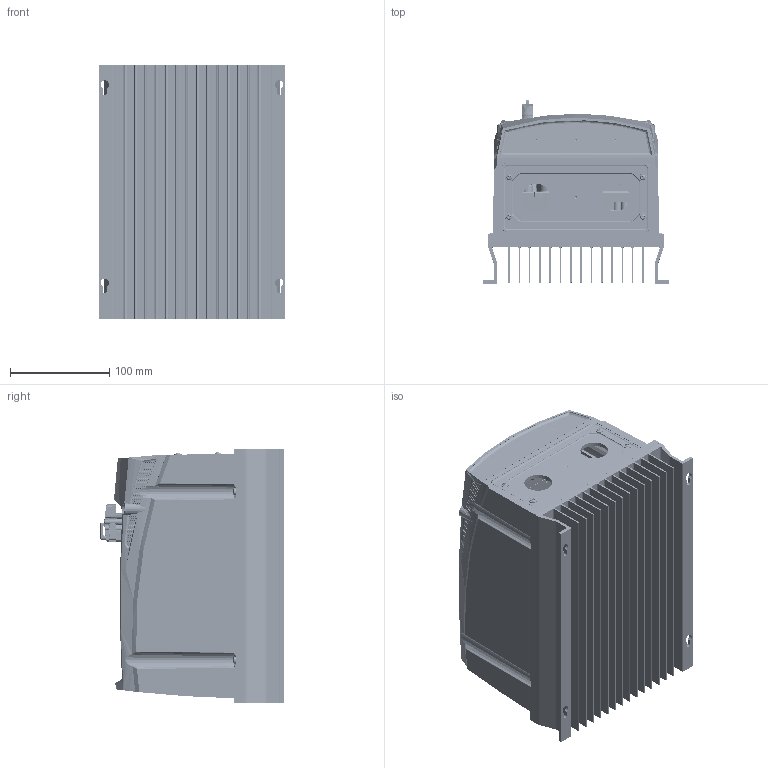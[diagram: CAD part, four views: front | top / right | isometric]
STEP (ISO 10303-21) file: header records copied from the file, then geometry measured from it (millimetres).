
FILE_DESCRIPTION (( 'STEP AP203' ), '1' );
FILE_NAME ('P2 IP66 Size2 ECO (ENVELOPE).STEP', '2020-12-03T09:54:48', ( '' ), ( '' ), 'SwSTEP 2.0', 'SolidWorks 2020', '' );
FILE_SCHEMA (( 'CONFIG_CONTROL_DESIGN' ));
Products named in the file (1): P2 IP66 Size2 ECO (ENVELOPE)
Bounding box: 188 x 185.5 x 257.09 mm (x, y, z)
Volume: 1374380.2 mm3; surface area: 829887.5 mm2
Topology: 7 solids, 29 shells, 8814 faces, 23954 edges, 15078 vertices
Faces by surface type: plane 3672, cylinder 1640, bspline 1401, sphere 1357, cone 500, torus 244
Entity records: 417957 total; most frequent: CARTESIAN_POINT 224314, ORIENTED_EDGE 46418, DIRECTION 30483, EDGE_CURVE 23209, VERTEX_POINT 15074, AXIS2_PLACEMENT_3D 10455, B_SPLINE_CURVE_WITH_KNOTS 9644, LINE 9573
